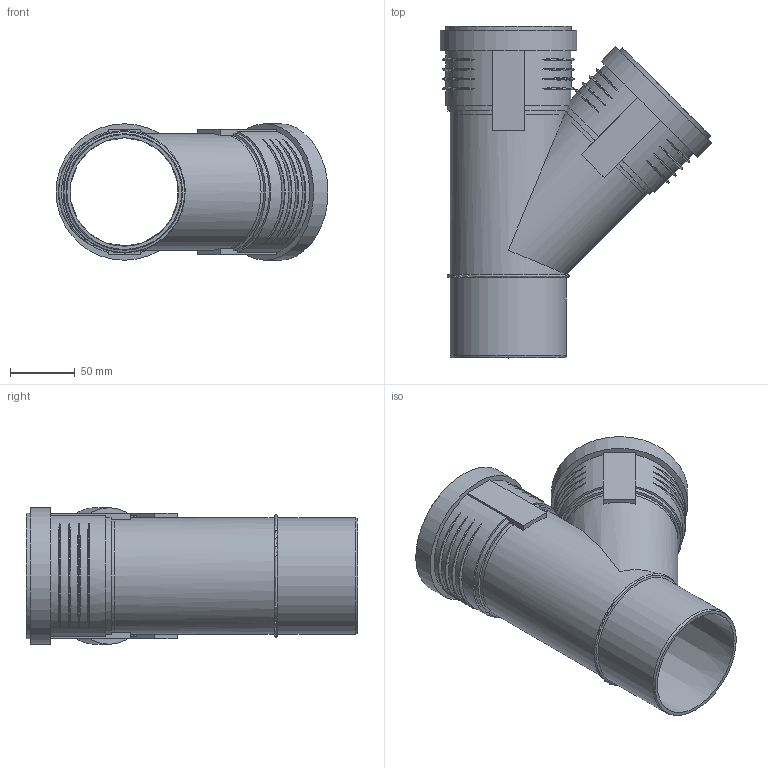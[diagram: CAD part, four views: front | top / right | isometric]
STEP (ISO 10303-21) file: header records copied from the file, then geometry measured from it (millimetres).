
FILE_DESCRIPTION(/* description */ (''),/* implementation_level */ '2;1');
FILE_NAME(/* name */ 'Z:\Geberit\Export\NewStep\390434.stp',/* time_stamp */ '2014-04-02T08:13:04+02:00',/* author */ ('ML'),/* organization */ (''),/* preprocessor_version */ 'ST-DEVELOPER v15.2',/* originating_system */ 'Autodesk Inventor 2014',/* authorisation */ '');
FILE_SCHEMA (('AUTOMOTIVE_DESIGN { 1 0 10303 214 3 1 1 }'));
Length unit declared in the file: millimetre
Products named in the file (4): 861344; 861403; 861403_1; 390434
Bounding box: 210.75 x 257.1 x 105.8 mm (x, y, z)
Volume: 345827.1 mm3; surface area: 231768.7 mm2
Topology: 3 solids, 3 shells, 124 faces, 304 edges, 212 vertices
Faces by surface type: torus 50, plane 37, cylinder 31, cone 6
Full cylindrical faces by diameter (mm): 84 x1, 84.2 x2, 90.2 x3, 91.2 x4, 97.2 x2, 99.8 x2, 105.8 x2
Entity records: 5174 total; most frequent: CARTESIAN_POINT 2221, ORIENTED_EDGE 548, DIRECTION 542, EDGE_CURVE 274, AXIS2_PLACEMENT_3D 235, VERTEX_POINT 206, EDGE_LOOP 182, STYLED_ITEM 125
